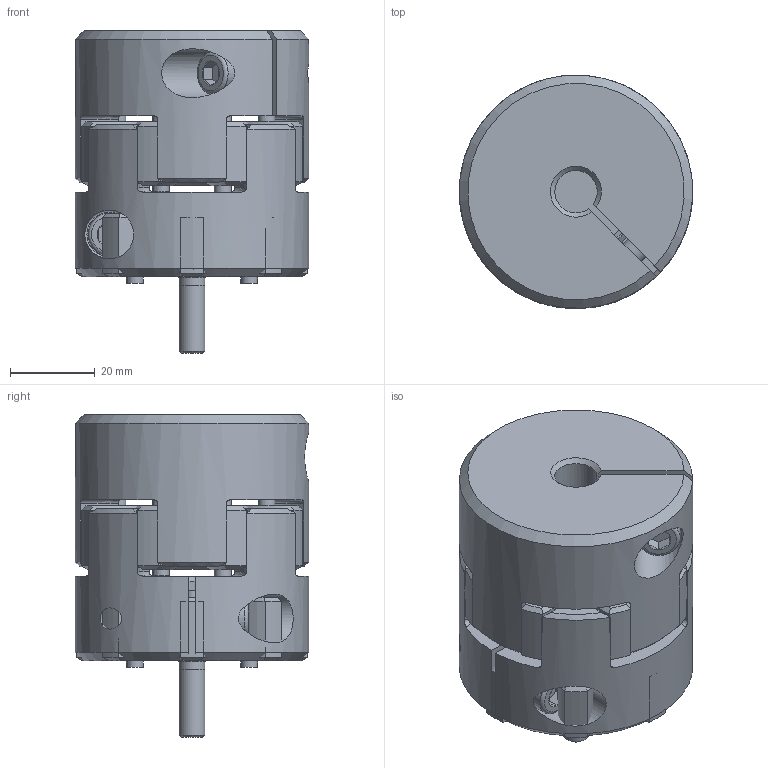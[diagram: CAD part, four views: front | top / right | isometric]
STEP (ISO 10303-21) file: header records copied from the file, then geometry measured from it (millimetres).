
FILE_DESCRIPTION( ( 'Unknown' ), '1' );
FILE_NAME( 'C:/Dokumente und Einstellungen/Sven/Desktop/homepage/cad - homepage/KBE2C/KBE2C-24.stp', 'Unknown', ( 'Unknown' ), ( 'Unknown' ), 'XStep 1.0', 'Unknown', ' ' );
FILE_SCHEMA( ( 'automotive_design' ) );
Length unit declared in the file: millimetre
Products named in the file (4): Assem1; KBE 2C - 24_Nabe_0; Zahnkranz_24_Standard; ISO EN DIN 4762 M6x18
Bounding box: 55 x 55 x 76 mm (x, y, z)
Volume: 184356.5 mm3; surface area: 55040.6 mm2
Topology: 8 solids, 8 shells, 509 faces, 1174 edges, 714 vertices
Faces by surface type: cone 210, cylinder 147, plane 116, torus 36
Full cylindrical faces by diameter (mm): 4 x16, 5 x6, 6 x6, 6.5 x3, 10 x3, 11.5 x3, 27 x4
Entity records: 6465 total; most frequent: CARTESIAN_POINT 1623, DIRECTION 1002, ORIENTED_EDGE 908, AXIS2_PLACEMENT_3D 466, EDGE_CURVE 454, VERTEX_POINT 285, EDGE_LOOP 253, CIRCLE 248
